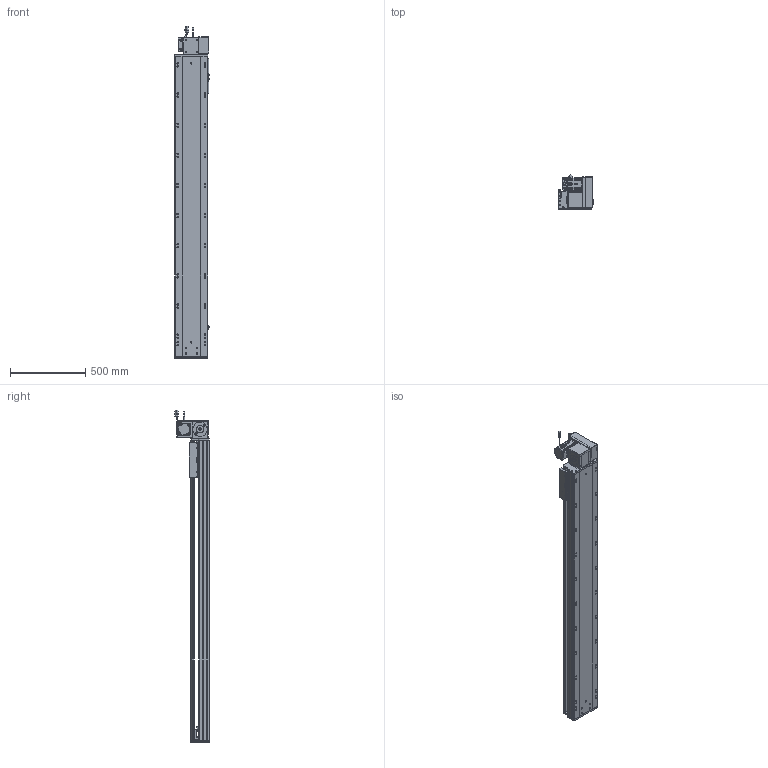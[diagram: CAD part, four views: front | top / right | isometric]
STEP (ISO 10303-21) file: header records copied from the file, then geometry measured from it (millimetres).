
FILE_DESCRIPTION (( 'STEP AP203' ), '1' );
FILE_NAME ('RY220-T-300-UR.SLDASM_1650.step', '2022-07-25T08:44:13', ( '' ), ( '' ), 'SwSTEP 2.0', 'SolidWorks 2016', '' );
FILE_SCHEMA (( 'CONFIG_CONTROL_DESIGN' ));
Length unit declared in the file: millimetre
Products named in the file (14): 覜茼ん672; RY220翋肮祭謫裔啣; 滅袉蝶18-15; RY220-T菁釱-300_1650; RY220翋肮祭謫釱; 110A-T-肮祭謫釱傷裔; RY220-俋离672覜茼んえ; RY220-T-蛌殏萇儂假蚾啣(750W); RY220圉猾敕々湍臏賑輸; RY220-同步轮副支撑座6304×2; RY220-T-300-UR.SLDASM_1650; 怢湛750W_ECMA-CX0807ES; RY220-T-300-奻裔啣_1650; RY220-T-湍謫欶(鍼踢)
Assembly tree (18 placements, depth 2):
  RY220-T-300-UR.SLDASM_1650
    RY220-T菁釱-300_1650
    RY220翋肮祭謫釱
    覜茼ん672  x3
    RY220圉猾敕々湍臏賑輸
    RY220-T-300-奻裔啣_1650
    RY220-俋离672覜茼んえ
    滅袉蝶18-15  x3
    RY220翋肮祭謫裔啣  x2
    110A-T-肮祭謫釱傷裔
    怢湛750W_ECMA-CX0807ES
    RY220-T-湍謫欶(鍼踢)
    RY220-T-蛌殏萇儂假蚾啣(750W)
    RY220-同步轮副支撑座6304×2
Bounding box: 238.7 x 231.74 x 2203.27 mm (x, y, z)
Volume: 16463137 mm3; surface area: 4952333 mm2
Topology: 19 solids, 19 shells, 2768 faces, 7647 edges, 4828 vertices
Faces by surface type: cylinder 1324, plane 1069, cone 293, bspline 56, sphere 16, torus 10
Entity records: 92227 total; most frequent: CARTESIAN_POINT 26211, ORIENTED_EDGE 13690, DIRECTION 13044, EDGE_CURVE 6845, AXIS2_PLACEMENT_3D 4650, VERTEX_POINT 4452, LINE 3744, VECTOR 3744
